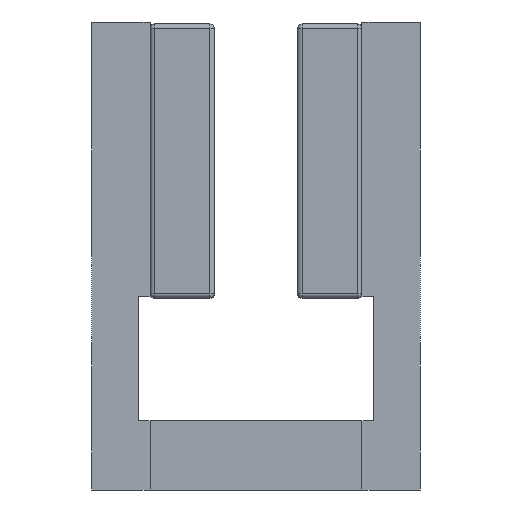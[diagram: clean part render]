
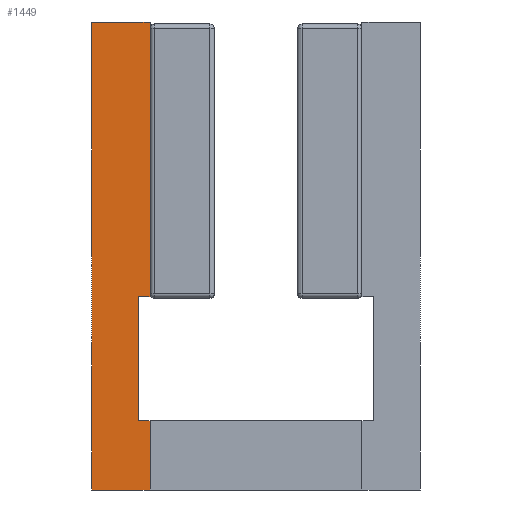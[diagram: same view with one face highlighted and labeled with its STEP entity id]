
A CAD part, front view. The second image highlights one B-rep face of the part: STEP entity #1449.
In plain terms, the highlighted planar face has unit normal (0, -1, 0).
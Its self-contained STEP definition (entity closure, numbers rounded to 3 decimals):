
#352 = VECTOR ( 'NONE', #4553, 1000. ) ;
#736 = LINE ( 'NONE', #22524, #352 ) ;
#1449 = ADVANCED_FACE ( 'Defeatured_0_5', ( #3239 ), #7825, .T. ) ;
#1534 = CARTESIAN_POINT ( 'NONE',  ( -4.702, -141.89, 32.223 ) ) ;
#1650 = CARTESIAN_POINT ( 'NONE',  ( -4.702, -141.89, 11.223 ) ) ;
#1796 = DIRECTION ( 'NONE',  ( 0., -1., 0. ) ) ;
#2012 = CARTESIAN_POINT ( 'NONE',  ( -4.702, -141.89, 11.223 ) ) ;
#2447 = VERTEX_POINT ( 'NONE', #20358 ) ;
#3239 = FACE_OUTER_BOUND ( 'NONE', #12174, .T. ) ;
#3264 = DIRECTION ( 'NONE',  ( 1., 0., 0. ) ) ;
#3505 = DIRECTION ( 'NONE',  ( 0., 0., 1. ) ) ;
#3536 = LINE ( 'NONE', #13114, #6907 ) ;
#3796 = LINE ( 'NONE', #6288, #9692 ) ;
#4354 = ORIENTED_EDGE ( 'NONE', *, *, #5772, .T. ) ;
#4553 = DIRECTION ( 'NONE',  ( 1., 0., 0. ) ) ;
#5264 = CARTESIAN_POINT ( 'NONE',  ( -11.052, -141.89, 11.223 ) ) ;
#5772 = EDGE_CURVE ( 'Defeatured_0_5+Defeatured_0_43+Defeatured_0_7+Defeatured_0_3', #21512, #6616, #21016, .T. ) ;
#6288 = CARTESIAN_POINT ( 'NONE',  ( -11.052, -141.89, 62.023 ) ) ;
#6616 = VERTEX_POINT ( 'NONE', #12777 ) ;
#6907 = VECTOR ( 'NONE', #3264, 1000. ) ;
#7825 = PLANE ( 'NONE',  #12487 ) ;
#7962 = ORIENTED_EDGE ( 'NONE', *, *, #21716, .F. ) ;
#8008 = LINE ( 'NONE', #24026, #10122 ) ;
#8269 = LINE ( 'NONE', #21926, #21362 ) ;
#8275 = VERTEX_POINT ( 'NONE', #12801 ) ;
#8299 = LINE ( 'NONE', #2012, #25303 ) ;
#9692 = VECTOR ( 'NONE', #20200, 1000. ) ;
#10122 = VECTOR ( 'NONE', #14154, 1000. ) ;
#10218 = VECTOR ( 'NONE', #10648, 1000. ) ;
#10648 = DIRECTION ( 'NONE',  ( 0., 0., 1. ) ) ;
#11511 = CARTESIAN_POINT ( 'NONE',  ( -4.702, -141.89, 11.223 ) ) ;
#12174 = EDGE_LOOP ( 'NONE', ( #20729, #12911, #7962, #24616, #21517, #16562, #25355, #4354 ) ) ;
#12487 = AXIS2_PLACEMENT_3D ( 'NONE', #1650, #1796, #3505 ) ;
#12777 = CARTESIAN_POINT ( 'NONE',  ( -4.702, -141.89, 18.723 ) ) ;
#12801 = CARTESIAN_POINT ( 'NONE',  ( -6.002, -141.89, 18.723 ) ) ;
#12911 = ORIENTED_EDGE ( 'NONE', *, *, #18139, .F. ) ;
#13114 = CARTESIAN_POINT ( 'NONE',  ( -11.052, -141.89, 11.223 ) ) ;
#13958 = DIRECTION ( 'NONE',  ( 0., 0., 1. ) ) ;
#14154 = DIRECTION ( 'NONE',  ( -1., 0., 0. ) ) ;
#14629 = LINE ( 'NONE', #20693, #23147 ) ;
#15626 = VERTEX_POINT ( 'NONE', #16487 ) ;
#16487 = CARTESIAN_POINT ( 'NONE',  ( -11.052, -141.89, 62.023 ) ) ;
#16562 = ORIENTED_EDGE ( 'NONE', *, *, #20010, .T. ) ;
#16603 = DIRECTION ( 'NONE',  ( -1., 0., 0. ) ) ;
#16761 = VERTEX_POINT ( 'NONE', #5264 ) ;
#16897 = EDGE_CURVE ( 'Defeatured_0_5+Defeatured_0_6+Defeatured_0_0+Defeatured_0_8', #2447, #15626, #8008, .T. ) ;
#17456 = EDGE_CURVE ( 'Defeatured_0_3+Defeatured_0_5+Defeatured_0_2+Defeatured_0_46', #8275, #6616, #736, .T. ) ;
#18118 = DIRECTION ( 'NONE',  ( 0., 0., -1. ) ) ;
#18139 = EDGE_CURVE ( 'Defeatured_0_2+Defeatured_0_5+Defeatured_0_1+Defeatured_0_3', #24394, #8275, #8269, .T. ) ;
#18526 = CARTESIAN_POINT ( 'NONE',  ( -4.702, -141.89, 11.223 ) ) ;
#20010 = EDGE_CURVE ( 'Defeatured_0_5+Defeatured_0_8+Defeatured_0_6+Defeatured_0_7', #15626, #16761, #3796, .T. ) ;
#20200 = DIRECTION ( 'NONE',  ( 0., 0., -1. ) ) ;
#20358 = CARTESIAN_POINT ( 'NONE',  ( -4.702, -141.89, 62.023 ) ) ;
#20693 = CARTESIAN_POINT ( 'NONE',  ( -4.702, -141.89, 32.223 ) ) ;
#20729 = ORIENTED_EDGE ( 'NONE', *, *, #17456, .F. ) ;
#20826 = CARTESIAN_POINT ( 'NONE',  ( -6.002, -141.89, 32.223 ) ) ;
#21016 = LINE ( 'NONE', #18526, #10218 ) ;
#21362 = VECTOR ( 'NONE', #18118, 1000. ) ;
#21512 = VERTEX_POINT ( 'NONE', #11511 ) ;
#21517 = ORIENTED_EDGE ( 'NONE', *, *, #16897, .T. ) ;
#21539 = VERTEX_POINT ( 'NONE', #1534 ) ;
#21716 = EDGE_CURVE ( 'Defeatured_0_1+Defeatured_0_5+Defeatured_0_0+Defeatured_0_2', #21539, #24394, #14629, .T. ) ;
#21926 = CARTESIAN_POINT ( 'NONE',  ( -6.002, -141.89, 18.723 ) ) ;
#22524 = CARTESIAN_POINT ( 'NONE',  ( -4.702, -141.89, 18.723 ) ) ;
#23147 = VECTOR ( 'NONE', #16603, 1000. ) ;
#24026 = CARTESIAN_POINT ( 'NONE',  ( -4.702, -141.89, 62.023 ) ) ;
#24394 = VERTEX_POINT ( 'NONE', #20826 ) ;
#24616 = ORIENTED_EDGE ( 'NONE', *, *, #25028, .T. ) ;
#25028 = EDGE_CURVE ( 'Defeatured_0_5+Defeatured_0_0+Defeatured_0_1+Defeatured_0_6', #21539, #2447, #8299, .T. ) ;
#25303 = VECTOR ( 'NONE', #13958, 1000. ) ;
#25355 = ORIENTED_EDGE ( 'NONE', *, *, #25643, .T. ) ;
#25643 = EDGE_CURVE ( 'Defeatured_0_5+Defeatured_0_7+Defeatured_0_8+Defeatured_0_43', #16761, #21512, #3536, .T. ) ;
